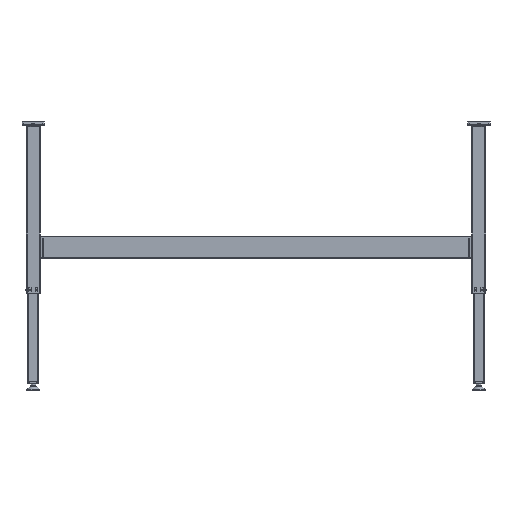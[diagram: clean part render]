
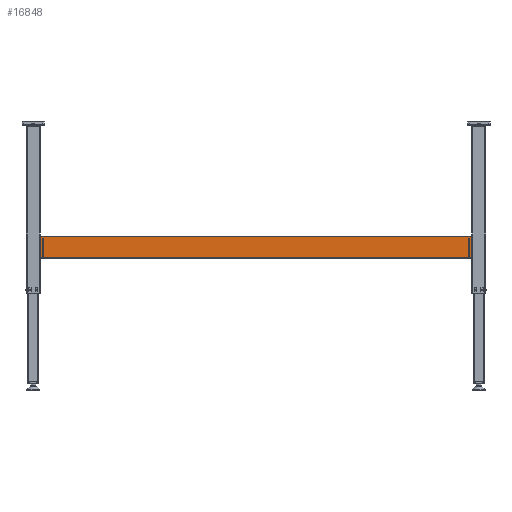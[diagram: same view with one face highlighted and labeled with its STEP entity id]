
A CAD part, left-side view. The second image highlights one B-rep face of the part: STEP entity #16848.
In plain terms, the highlighted planar face has unit normal (-1, 0, 0) as drawn and (0, 0, 1) by its records, which use the part's own axes.
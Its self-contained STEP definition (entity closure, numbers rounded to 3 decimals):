
#5900=ORIENTED_EDGE('',*,*,#8285,.F.);
#5901=ORIENTED_EDGE('',*,*,#8284,.F.);
#5902=ORIENTED_EDGE('',*,*,#8286,.T.);
#5903=ORIENTED_EDGE('',*,*,#8287,.T.);
#8284=EDGE_CURVE('',#9863,#9862,#11279,.T.);
#8285=EDGE_CURVE('',#9862,#9864,#11280,.T.);
#8286=EDGE_CURVE('',#9863,#9865,#11281,.T.);
#8287=EDGE_CURVE('',#9865,#9864,#11282,.T.);
#9862=VERTEX_POINT('',#35280);
#9863=VERTEX_POINT('',#35282);
#9864=VERTEX_POINT('',#35286);
#9865=VERTEX_POINT('',#35288);
#11279=LINE('',#35283,#12675);
#11280=LINE('',#35285,#12676);
#11281=LINE('',#35287,#12677);
#11282=LINE('',#35289,#12678);
#12675=VECTOR('',#28483,1000.);
#12676=VECTOR('',#28486,1000.);
#12677=VECTOR('',#28487,1000.);
#12678=VECTOR('',#28488,1000.);
#13930=EDGE_LOOP('',(#5900,#5901,#5902,#5903));
#15278=FACE_BOUND('',#13930,.T.);
#15944=PLANE('',#23811);
#16848=ADVANCED_FACE('',(#15278),#15944,.T.);
#23811=AXIS2_PLACEMENT_3D('',#35284,#28484,#28485);
#28483=DIRECTION('',(0.,-1.,0.));
#28484=DIRECTION('',(0.,0.,1.));
#28485=DIRECTION('',(1.,0.,0.));
#28486=DIRECTION('',(-1.,0.,0.));
#28487=DIRECTION('',(-1.,0.,0.));
#28488=DIRECTION('',(0.,-1.,0.));
#35280=CARTESIAN_POINT('',(38.,0.,25.));
#35282=CARTESIAN_POINT('',(38.,1550.,25.));
#35283=CARTESIAN_POINT('',(38.,1550.,25.));
#35284=CARTESIAN_POINT('',(38.,1550.,25.));
#35285=CARTESIAN_POINT('',(38.,0.,25.));
#35286=CARTESIAN_POINT('',(-38.,0.,25.));
#35287=CARTESIAN_POINT('',(38.,1550.,25.));
#35288=CARTESIAN_POINT('',(-38.,1550.,25.));
#35289=CARTESIAN_POINT('',(-38.,1550.,25.));
